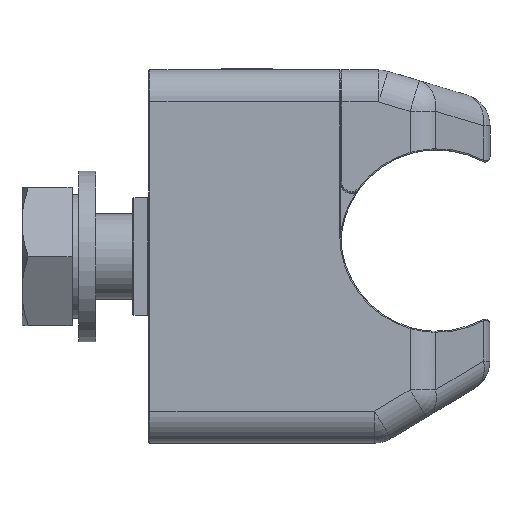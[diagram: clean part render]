
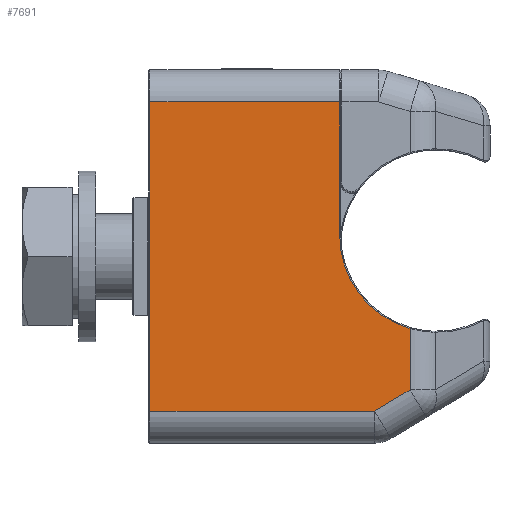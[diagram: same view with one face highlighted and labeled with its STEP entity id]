
A CAD part, left-side view. The second image highlights one B-rep face of the part: STEP entity #7691.
In plain terms, the highlighted planar face has unit normal (-1, 0, 0) as drawn and (0, 0, -1) by its records, which use the part's own axes.
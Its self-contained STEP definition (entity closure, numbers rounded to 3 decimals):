
#305=PLANE('',#8529);
#935=LINE('',#13810,#1595);
#939=LINE('',#13841,#1599);
#940=LINE('',#13845,#1600);
#941=LINE('',#13847,#1601);
#942=LINE('',#13849,#1602);
#943=LINE('',#13852,#1603);
#1595=VECTOR('',#10449,10.);
#1599=VECTOR('',#10495,10.);
#1600=VECTOR('',#10500,10.);
#1601=VECTOR('',#10501,10.);
#1602=VECTOR('',#10502,10.);
#1603=VECTOR('',#10505,10.);
#2270=FACE_OUTER_BOUND('',#2775,.T.);
#2775=EDGE_LOOP('',(#6722,#6723,#6724,#6725,#6726,#6727,#6728));
#3192=CIRCLE('',#8530,9.1);
#3780=VERTEX_POINT('',#13806);
#3781=VERTEX_POINT('',#13808);
#3787=VERTEX_POINT('',#13840);
#3788=VERTEX_POINT('',#13844);
#3789=VERTEX_POINT('',#13846);
#3790=VERTEX_POINT('',#13848);
#3791=VERTEX_POINT('',#13850);
#4768=EDGE_CURVE('',#3781,#3780,#935,.T.);
#4783=EDGE_CURVE('',#3780,#3787,#939,.T.);
#4785=EDGE_CURVE('',#3788,#3781,#940,.T.);
#4786=EDGE_CURVE('',#3789,#3788,#941,.T.);
#4787=EDGE_CURVE('',#3790,#3789,#942,.T.);
#4788=EDGE_CURVE('',#3791,#3790,#3192,.T.);
#4789=EDGE_CURVE('',#3787,#3791,#943,.T.);
#6722=ORIENTED_EDGE('',*,*,#4768,.F.);
#6723=ORIENTED_EDGE('',*,*,#4785,.F.);
#6724=ORIENTED_EDGE('',*,*,#4786,.F.);
#6725=ORIENTED_EDGE('',*,*,#4787,.F.);
#6726=ORIENTED_EDGE('',*,*,#4788,.F.);
#6727=ORIENTED_EDGE('',*,*,#4789,.F.);
#6728=ORIENTED_EDGE('',*,*,#4783,.F.);
#7691=ADVANCED_FACE('',(#2270),#305,.F.);
#8529=AXIS2_PLACEMENT_3D('',#13843,#10498,#10499);
#8530=AXIS2_PLACEMENT_3D('',#13851,#10503,#10504);
#10449=DIRECTION('',(-1.,0.,0.));
#10495=DIRECTION('',(0.,-1.,0.));
#10498=DIRECTION('center_axis',(0.,0.,1.));
#10499=DIRECTION('ref_axis',(1.,0.,0.));
#10500=DIRECTION('',(0.,1.,0.));
#10501=DIRECTION('',(0.514,0.857,0.));
#10502=DIRECTION('',(1.,0.,0.));
#10503=DIRECTION('center_axis',(0.,0.,-1.));
#10504=DIRECTION('ref_axis',(0.601,0.799,0.));
#10505=DIRECTION('',(1.,0.,0.));
#13806=CARTESIAN_POINT('',(-32.,-0.1,0.));
#13808=CARTESIAN_POINT('',(-3.,-0.1,0.));
#13810=CARTESIAN_POINT('',(-25.067,-0.1,0.));
#13840=CARTESIAN_POINT('',(-32.,-17.9,0.));
#13841=CARTESIAN_POINT('',(-32.,-15.762,0.));
#13843=CARTESIAN_POINT('Origin',(-15.133,-13.524,0.));
#13844=CARTESIAN_POINT('',(-3.,-21.169,0.));
#13845=CARTESIAN_POINT('',(-3.,-6.762,0.));
#13846=CARTESIAN_POINT('',(-4.999,-24.5,0.));
#13847=CARTESIAN_POINT('',(-4.206,-23.179,0.));
#13848=CARTESIAN_POINT('',(-10.75,-24.5,0.));
#13849=CARTESIAN_POINT('',(-11.35,-24.5,0.));
#13850=CARTESIAN_POINT('',(-19.5,-17.9,0.));
#13851=CARTESIAN_POINT('Origin',(-19.5,-27.,0.));
#13852=CARTESIAN_POINT('',(-17.317,-17.9,0.));
